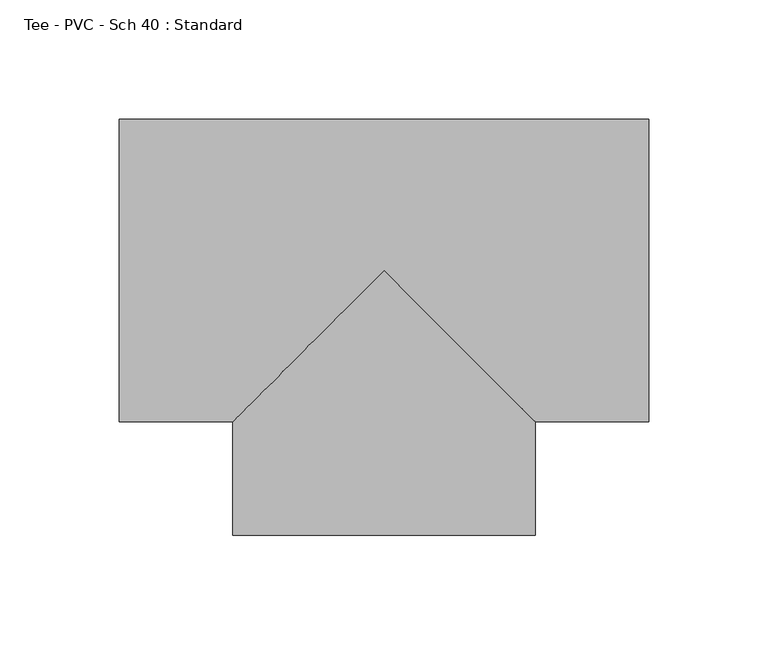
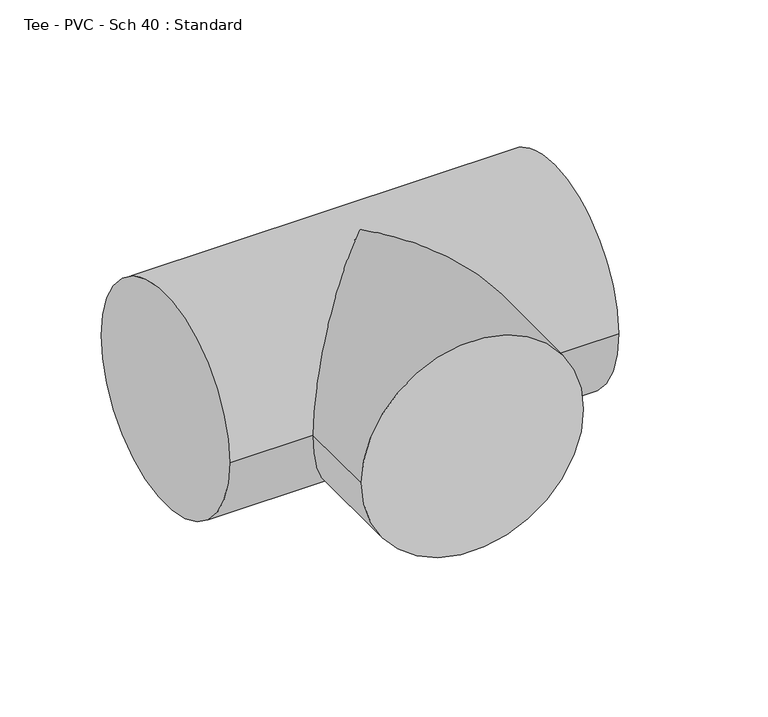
"""IFC4 building model written with IfcOpenShell, lengths in millimetres: pipe fitting geometry, Tee - PVC - Sch 40 : Standard."""

from ifc_helpers import new_model, si_unit, frame, origin, place, context, project, spatial, circle_curve, ellipse_curve, source, transform, mapped, element, save
from ifc_brep_helpers import plane_surface, cylinder_surface, advanced_brep


def tee_pvc_sch_40_standard_fd0a187c(model_context):
    return source(origin(), model_context, "Body", "AdvancedBrep", [
        advanced_brep(
        [(-111.125, -63.5, 0.0), (-111.125, 63.5, 0.0), (111.125, -63.5, 0.0), (111.125, 63.5, 0.0), (-63.4931109, -63.5, 0.0), (0.0, 0.0, 63.5), (63.5068898, -63.5, 0.0), (0.0, 0.0, -63.5), (-63.4879431, -111.1318888, 0.0), (63.5120562, -111.1181099, 0.0)],
        [
            (0, 1, circle_curve(frame((-111.125, 0.0, 0.0), z_axis=(-1.0, 0.0, 0.0), x_axis=(0.0, 1.0, 0.0)), 63.5)),
            (1, 0, circle_curve(frame((-111.125, 0.0, 0.0), z_axis=(-1.0, 0.0, 0.0), x_axis=(0.0, 1.0, 0.0)), 63.5)),
            (2, 3, circle_curve(frame((111.125, 0.0, 0.0), z_axis=(1.0, 0.0, 0.0), x_axis=(0.0, 1.0, 0.0)), 63.5)),
            (3, 2, circle_curve(frame((111.125, 0.0, 0.0), z_axis=(1.0, 0.0, 0.0), x_axis=(0.0, 1.0, 0.0)), 63.5)),
            (0, 4),
            (4, 5, ellipse_curve(frame((0.0, 0.0, 0.0), z_axis=(-0.707145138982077, 0.7070684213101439, 0.0), x_axis=(-0.7070684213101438, -0.7071451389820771, 0.0)), 89.79769, 63.5)),
            (5, 6, ellipse_curve(frame((0.0, 0.0, 0.0), z_axis=(0.707068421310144, 0.707145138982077, 0.0), x_axis=(-0.7071451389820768, 0.707068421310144, 0.0)), 89.8074332, 63.5)),
            (6, 2),
            (3, 1),
            (6, 7, ellipse_curve(frame((0.0, 0.0, 0.0), z_axis=(0.707068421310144, 0.707145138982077, 0.0), x_axis=(-0.7071451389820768, 0.707068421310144, 0.0)), 89.8074332, 63.5)),
            (7, 4, ellipse_curve(frame((0.0, 0.0, 0.0), z_axis=(-0.707145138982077, 0.7070684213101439, 0.0), x_axis=(-0.7070684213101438, -0.7071451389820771, 0.0)), 89.79769, 63.5)),
            (8, 9, circle_curve(frame((0.0120565, -111.1249993, 0.0), z_axis=(0.00010849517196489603, -0.9999999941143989, 0.0), x_axis=(0.9999999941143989, 0.00010849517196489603, 0.0)), 63.5)),
            (9, 8, circle_curve(frame((0.0120565, -111.1249993, 0.0), z_axis=(0.00010849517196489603, -0.9999999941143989, 0.0), x_axis=(0.9999999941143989, 0.00010849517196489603, 0.0)), 63.5)),
            (9, 6),
            (4, 8),
        ],
        [
            plane_surface(frame((-111.125, 0.0, 0.0), z_axis=(-1.0, 0.0, 0.0), x_axis=(0.0, 0.0, 1.0))),
            plane_surface(frame((111.125, 0.0, 0.0), z_axis=(1.0, 0.0, 0.0), x_axis=(0.0, 0.0, 1.0))),
            cylinder_surface(frame((-111.125, 0.0, 0.0), z_axis=(-1.0, 0.0, 0.0), x_axis=(0.0, 1.0, 0.0)), 63.5),
            plane_surface(frame((0.0120565, -111.1249993, 0.0), z_axis=(0.00010849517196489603, -0.9999999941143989, 0.0), x_axis=(0.0, 0.0, 1.0))),
            cylinder_surface(frame((0.0, 0.0, 0.0), z_axis=(-0.00010849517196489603, 0.9999999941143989, 0.0), x_axis=(0.9999999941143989, 0.00010849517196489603, 0.0)), 63.5),
        ],
        [
            (0, [[1, 2]]),
            (1, [[3, 4]]),
            (2, [[-1, 5, 6, 7, 8, -4, 9]]),
            (2, [[-2, -9, -3, -8, 10, 11, -5]]),
            (3, [[12, 13]]),
            (4, [[-13, 14, -7, -6, 15]]),
            (4, [[-12, -15, -11, -10, -14]]),
        ],
    ),
    ])


if __name__ == "__main__":
    model = new_model("IFC4")
    model_context = context("Model", 3, world=origin())
    ifc_project = project(units=[si_unit("LENGTHUNIT", "METRE", prefix="MILLI")], contexts=[model_context])
    site = spatial("IfcSite", under=ifc_project)
    building = spatial("IfcBuilding", under=site)
    placement = place(None, origin())
    tee_pvc_sch_40_standard_shape = tee_pvc_sch_40_standard_fd0a187c(model_context)
    element("IfcPipeFitting", 1, ObjectType="Tee - PVC - Sch 40 : Standard", at=placement, inside=building, context=model_context, shape_type="MappedRepresentation", body=[
        mapped(tee_pvc_sch_40_standard_shape, transform((0.0, 0.0, 0.0), x_axis=(1.0, 0.0, 0.0), y_axis=(0.0, 1.0, 0.0), z_axis=(0.0, 0.0, 1.0))),
    ])
    save(model, "model.ifc")
